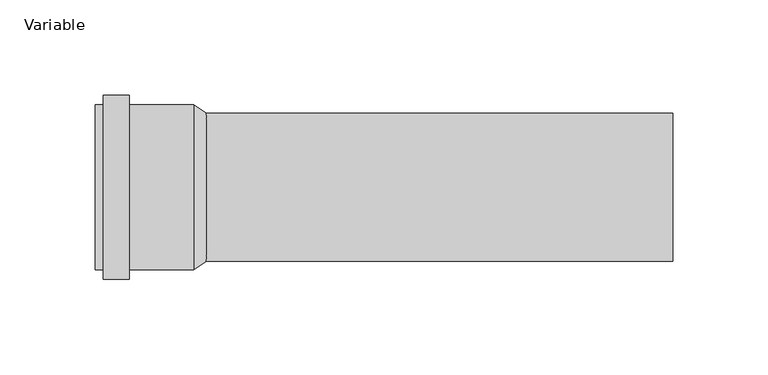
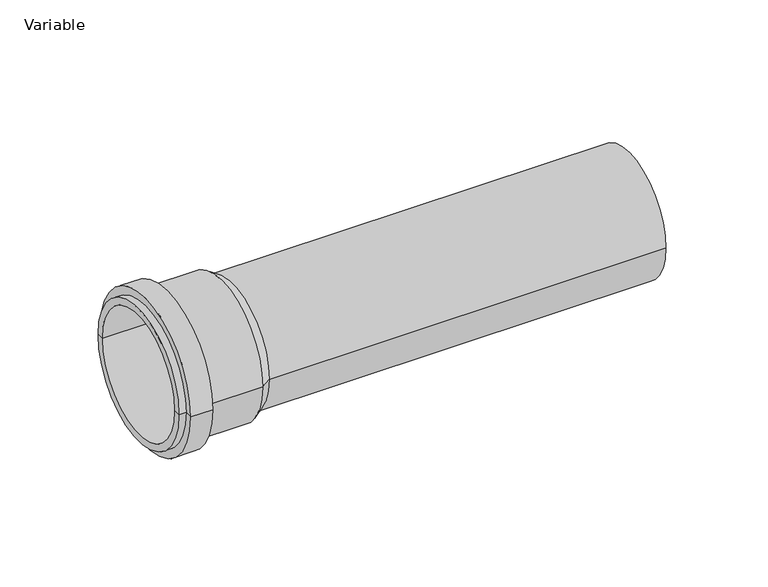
"""IFC4 building model written with IfcOpenShell, lengths in millimetres: pipe fitting geometry, AliaxisFR_Friaphon_LongCoupling_FR : Variable."""

from ifc_helpers import new_model, si_unit, point, frame, origin, origin_2d, place, context, project, spatial, polyline, circle_curve, trimmed, segment, composite_curve, outline, extrude, source, transform, mapped, element, save
from ifc_brep_helpers import plane_surface, cylinder_surface, revolved_surface, advanced_brep


def variable_44e71c47(model_context):
    return source(origin(), model_context, "Body", "SolidModel", [
        advanced_brep(
        [(-179.0, 43.4, 0.0), (-179.0, -43.4, 0.0), (-179.0, -39.0, 0.0), (-179.0, 39.0, 0.0), (-161.0, 48.5, 0.0), (-161.0, -48.5, 0.0), (-174.6, -48.5, 0.0), (-174.6, 48.5, 0.0), (-161.0, 43.4, 0.0), (-161.0, -43.4, 0.0), (-127.2, 43.4, 0.0), (-127.2, -43.4, 0.0), (-120.6, -39.0, 0.0), (-120.6, 39.0, 0.0), (-174.6, 43.4, 0.0), (-174.6, -43.4, 0.0)],
        [
            (0, 1, circle_curve(frame((-179.0, 0.0, 0.0), z_axis=(-1.0, 0.0, 0.0), x_axis=(0.0, -1.0, 0.0)), 43.4)),
            (1, 2),
            (2, 3, circle_curve(frame((-179.0, 0.0, 0.0), z_axis=(1.0, 0.0, 0.0), x_axis=(0.0, -1.0, 0.0)), 39.0)),
            (3, 0),
            (1, 0, circle_curve(frame((-179.0, 0.0, 0.0), z_axis=(-1.0, 0.0, 0.0), x_axis=(0.0, -1.0, 0.0)), 43.4)),
            (3, 2, circle_curve(frame((-179.0, 0.0, 0.0), z_axis=(1.0, 0.0, 0.0), x_axis=(0.0, -1.0, 0.0)), 39.0)),
            (4, 5, circle_curve(frame((-161.0, 0.0, 0.0), z_axis=(-1.0, 0.0, 0.0), x_axis=(0.0, -1.0, 0.0)), 48.5)),
            (5, 6),
            (6, 7, circle_curve(frame((-174.6, 0.0, 0.0), z_axis=(1.0, 0.0, 0.0), x_axis=(0.0, -1.0, 0.0)), 48.5)),
            (7, 4),
            (5, 4, circle_curve(frame((-161.0, 0.0, 0.0), z_axis=(-1.0, 0.0, 0.0), x_axis=(0.0, -1.0, 0.0)), 48.5)),
            (7, 6, circle_curve(frame((-174.6, 0.0, 0.0), z_axis=(1.0, 0.0, 0.0), x_axis=(0.0, -1.0, 0.0)), 48.5)),
            (8, 9, circle_curve(frame((-161.0, 0.0, 0.0), z_axis=(-1.0, 0.0, 0.0), x_axis=(0.0, -1.0, 0.0)), 43.4)),
            (9, 5),
            (4, 8),
            (9, 8, circle_curve(frame((-161.0, 0.0, 0.0), z_axis=(-1.0, 0.0, 0.0), x_axis=(0.0, -1.0, 0.0)), 43.4)),
            (10, 11, circle_curve(frame((-127.2, 0.0, 0.0), z_axis=(-1.0, 0.0, 0.0), x_axis=(0.0, -1.0, 0.0)), 43.4)),
            (11, 9),
            (8, 10),
            (11, 10, circle_curve(frame((-127.2, 0.0, 0.0), z_axis=(-1.0, 0.0, 0.0), x_axis=(0.0, -1.0, 0.0)), 43.4)),
            (2, 12),
            (12, 13, circle_curve(frame((-120.6, 0.0, 0.0), z_axis=(1.0, 0.0, 0.0), x_axis=(0.0, -1.0, 0.0)), 39.0)),
            (13, 3),
            (13, 12, circle_curve(frame((-120.6, 0.0, 0.0), z_axis=(1.0, 0.0, 0.0), x_axis=(0.0, -1.0, 0.0)), 39.0)),
            (12, 11),
            (10, 13),
            (14, 15, circle_curve(frame((-174.6, 0.0, 0.0), z_axis=(-1.0, 0.0, 0.0), x_axis=(0.0, -1.0, 0.0)), 43.4)),
            (15, 1),
            (0, 14),
            (15, 14, circle_curve(frame((-174.6, 0.0, 0.0), z_axis=(-1.0, 0.0, 0.0), x_axis=(0.0, -1.0, 0.0)), 43.4)),
            (6, 15),
            (14, 7),
        ],
        [
            plane_surface(frame((-179.0, 0.0, 0.0), z_axis=(-1.0, 0.0, 0.0), x_axis=(0.0, -1.0, 0.0))),
            cylinder_surface(frame((-120.6, 0.0, 0.0), z_axis=(1.0, 0.0, 0.0), x_axis=(0.0, -1.0, 0.0)), 48.5),
            plane_surface(frame((-161.0, 0.0, 0.0), z_axis=(1.0, 0.0, 0.0), x_axis=(0.0, -1.0, 0.0))),
            cylinder_surface(frame((-120.6, 0.0, 0.0), z_axis=(1.0, 0.0, 0.0), x_axis=(0.0, -1.0, 0.0)), 43.4),
            revolved_surface(polyline([(-120.6, -39.0, 0.0), (-179.0, -39.0, 0.0)]), (-120.6, 0.0, 0.0), (1.0, 0.0, 0.0)),
            revolved_surface(polyline([(-127.2, -43.4, 0.0), (-120.6, -39.0, 0.0)]), (-120.6, 0.0, 0.0), (1.0, 0.0, 0.0)),
            plane_surface(frame((-174.6, 0.0, 0.0), z_axis=(-1.0, 0.0, 0.0), x_axis=(0.0, -1.0, 0.0))),
        ],
        [
            (0, [[1, 2, 3, 4]]),
            (0, [[5, -4, 6, -2]]),
            (1, [[7, 8, 9, 10]]),
            (1, [[11, -10, 12, -8]]),
            (2, [[13, 14, -7, 15]]),
            (2, [[16, -15, -11, -14]]),
            (3, [[17, 18, -13, 19]]),
            (3, [[20, -19, -16, -18]]),
            (4, [[-3, 21, 22, 23]]),
            (4, [[-6, -23, 24, -21]]),
            (5, [[-22, 25, -17, 26]]),
            (5, [[-24, -26, -20, -25]]),
            (3, [[27, 28, -1, 29]]),
            (3, [[30, -29, -5, -28]]),
            (6, [[-9, 31, -27, 32]]),
            (6, [[-12, -32, -30, -31]]),
        ],
    ),
        extrude(outline(composite_curve([segment(trimmed(circle_curve(origin_2d(), 39.0), [point((-39.0, 0.0))], [point((39.0, 0.0))], False, "CARTESIAN"), True, "CONTINUOUS"), segment(trimmed(circle_curve(origin_2d(), 39.0), [point((39.0, 0.0))], [point((-39.0, 0.0))], False, "CARTESIAN"), True, "CONTINUOUS")], self_intersect=False)), frame((-125.0, 0.0, 0.0), z_axis=(1.0, 0.0, 0.0), x_axis=(0.0, 1.0, 0.0)), (0.0, 0.0, 1.0), 250.0),
    ])


if __name__ == "__main__":
    model = new_model("IFC4")
    model_context = context("Model", 3, world=origin())
    ifc_project = project(units=[si_unit("LENGTHUNIT", "METRE", prefix="MILLI")], contexts=[model_context])
    site = spatial("IfcSite", under=ifc_project)
    building = spatial("IfcBuilding", under=site)
    placement = place(None, origin())
    variable_shape = variable_44e71c47(model_context)
    element("IfcPipeFitting", 1, ObjectType="AliaxisFR_Friaphon_LongCoupling_FR : Variable", at=placement, inside=building, context=model_context, shape_type="MappedRepresentation", body=[
        mapped(variable_shape, transform((0.0, 0.0, 0.0), x_axis=(1.0, 0.0, 0.0), y_axis=(0.0, 1.0, 0.0), z_axis=(0.0, 0.0, 1.0))),
    ])
    save(model, "model.ifc")
